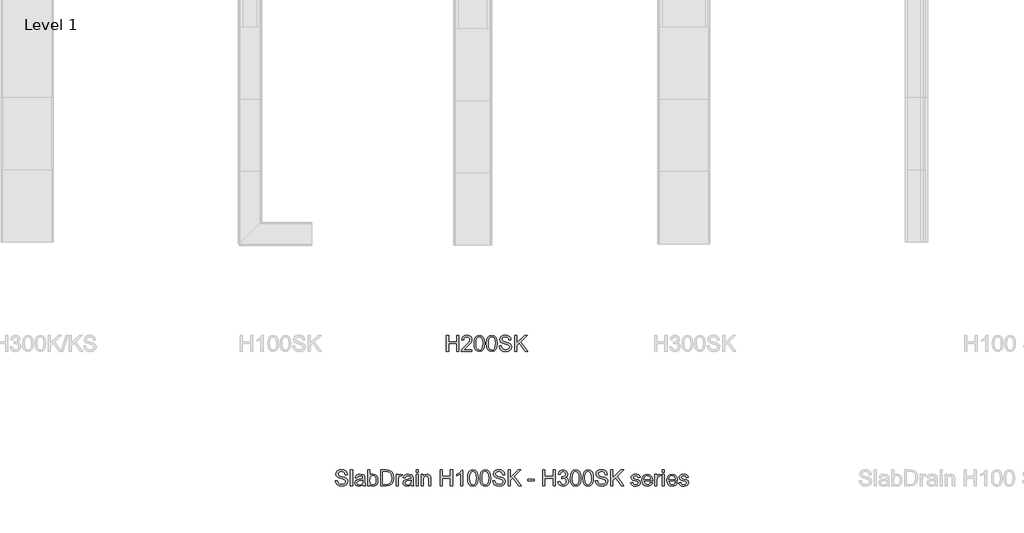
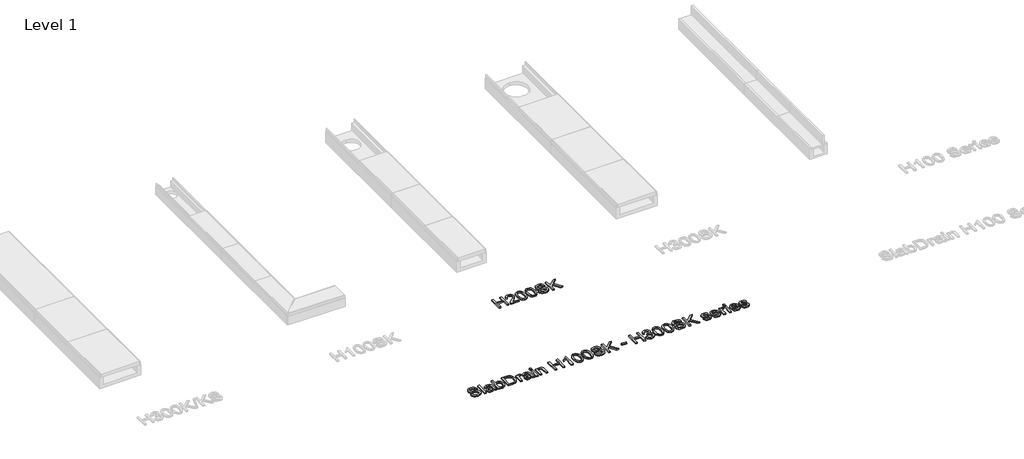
# One storey, part 3 of 4: 2 proxies.
"""IFC4 building model written with IfcOpenShell, lengths in millimetres."""

import ifcopenshell
import ifcopenshell.guid

model = None  # the IFC model being written
_history = None  # IfcOwnerHistory: only IFC2X3 demands one
_inside = {}  # id of a spatial element -> (the spatial element, [elements in it])
_under = {}  # id of a project, library or spatial element -> (it, [spatial elements below it])
_declared = {}  # id of a project -> (the project, [libraries it declares])
_typed = {}  # id of a type object -> (the type object, [elements of that type])
_made_of = {}  # id of a material, layer set ... -> (it, [elements and type objects made of it])


def new_model(schema):
    """Start an empty IFC model of exactly this schema.

    Asked for "IFC4X3", IfcOpenShell would pick the latest addendum, in which some entities
    have other attributes; the version numbers below select the first issue.
    IFC2X3 requires an IfcOwnerHistory on every rooted entity: one is made here for all.
    """
    global model, _history
    if schema == "IFC4X3":
        model = ifcopenshell.file(schema_version=(4, 3, 0, 0))
    else:
        model = ifcopenshell.file(schema=schema)
    _inside.clear()
    _under.clear()
    _declared.clear()
    _typed.clear()
    _made_of.clear()
    _history = None
    if model.schema == "IFC2X3":
        org = make("IfcOrganization", Name="unknown")
        user = make(
            "IfcPersonAndOrganization",
            ThePerson=make("IfcPerson", FamilyName="unknown"),
            TheOrganization=org,
        )
        app = make(
            "IfcApplication",
            ApplicationDeveloper=org,
            Version="unknown",
            ApplicationFullName="unknown",
            ApplicationIdentifier="unknown",
        )
        _history = make(
            "IfcOwnerHistory",
            OwningUser=user,
            OwningApplication=app,
            ChangeAction="ADDED",
            CreationDate=0,
        )
    return model


def make(cls, **values):
    """One entity of the class cls with the attributes given. An attribute that is None is left unset."""
    return model.create_entity(
        cls, **{name: value for name, value in values.items() if value is not None}
    )


def rooted(cls, **values):
    """An entity with a GlobalId (a new one), such as an element, a storey or a relation."""
    return make(cls, GlobalId=ifcopenshell.guid.new(), OwnerHistory=_history, **values)


def si_unit(unit_type, name, prefix=None):
    """IfcSIUnit, for example si_unit("LENGTHUNIT", "METRE", prefix="MILLI")."""
    return make("IfcSIUnit", UnitType=unit_type, Prefix=prefix, Name=name)


def assignment(units):
    """IfcUnitAssignment: the units of a project."""
    return None if units is None else make("IfcUnitAssignment", Units=units)


def point(xyz):
    """IfcCartesianPoint."""
    return None if xyz is None else make("IfcCartesianPoint", Coordinates=xyz)


def direction(xyz):
    """IfcDirection."""
    return None if xyz is None else make("IfcDirection", DirectionRatios=xyz)


def frame(location, z_axis=None, x_axis=None):
    """IfcAxis2Placement3D, a coordinate frame: its origin and axes. An axis left out is left unset."""
    return make(
        "IfcAxis2Placement3D",
        Location=point(location),
        Axis=direction(z_axis),
        RefDirection=direction(x_axis),
    )


def origin():
    """The frame at (0, 0, 0) with its axes left unset."""
    return frame((0.0, 0.0, 0.0))


def origin_with_axes():
    """The frame at (0, 0, 0) with the z axis (0, 0, 1) and the x axis (1, 0, 0) written out."""
    return frame((0.0, 0.0, 0.0), z_axis=(0.0, 0.0, 1.0), x_axis=(1.0, 0.0, 0.0))


def place(relative_to, where):
    """IfcLocalPlacement: puts the frame where relative to a parent placement (None: the world)."""
    return make(
        "IfcLocalPlacement", PlacementRelTo=relative_to, RelativePlacement=where
    )


def context(
    kind, dimensions, precision=None, world=None, true_north=None, identifier=None
):
    """IfcGeometricRepresentationContext, for example the 3D "Model" context."""
    return make(
        "IfcGeometricRepresentationContext",
        ContextIdentifier=identifier,
        ContextType=kind,
        CoordinateSpaceDimension=dimensions,
        Precision=precision,
        WorldCoordinateSystem=world,
        TrueNorth=true_north,
    )


def project(units=None, contexts=None):
    """IfcProject with its units and contexts."""
    return rooted(
        "IfcProject",
        Name="project",
        RepresentationContexts=contexts,
        UnitsInContext=assignment(units),
    )


def spatial(cls, under=None, at=None, **own):
    """A site, building, storey or space (cls), placed at a placement, below another one or the project."""
    s = rooted(cls, ObjectPlacement=at, **own)
    if under is not None:
        _under.setdefault(under.id(), (under, []))[1].append(s)
    return s


def polyline(points):
    """IfcPolyline through the points."""
    return make("IfcPolyline", Points=[point(p) for p in points])


def outline(outer, holes=None, kind="AREA"):
    """IfcArbitraryClosedProfileDef: a profile drawn as a closed curve; with holes, ...WithVoids."""
    if holes is None:
        return make("IfcArbitraryClosedProfileDef", ProfileType=kind, OuterCurve=outer)
    return make(
        "IfcArbitraryProfileDefWithVoids",
        ProfileType=kind,
        OuterCurve=outer,
        InnerCurves=holes,
    )


def extrude(swept, where, along, depth):
    """IfcExtrudedAreaSolid: the profile swept, set in the frame where, extruded along a direction by depth."""
    return make(
        "IfcExtrudedAreaSolid",
        SweptArea=swept,
        Position=where,
        ExtrudedDirection=direction(along),
        Depth=depth,
    )


def shape(context_of_items, identifier, shape_type, items):
    """IfcShapeRepresentation: the items that make up one representation, for example the "Body"."""
    return make(
        "IfcShapeRepresentation",
        ContextOfItems=context_of_items,
        RepresentationIdentifier=identifier,
        RepresentationType=shape_type,
        Items=items,
    )


def made_of(thing, what):
    """Note that an element or type object is made of a material, layer set ...; save() writes the relation."""
    if what is not None:
        _made_of.setdefault(what.id(), (what, []))[1].append(thing)
    return thing


def element(
    cls,
    number,
    at=None,
    inside=None,
    cuts=None,
    type_object=None,
    material=None,
    context=None,
    identifier="Body",
    shape_type=None,
    held_by="IfcProductDefinitionShape",
    body=None,
    shapes=None,
    **own,
):
    """One element of the class cls, such as IfcWall. Its Tag is "e" and its number.

    at: its placement. inside: the storey or other place that contains it. cuts: it is an
    opening in that element (IfcRelVoidsElement). A single representation is given by context,
    identifier, shape_type and body (its items); several are given by shapes. held_by: the class
    of the entity that holds the representations. save() writes the other relations.
    """
    e = rooted(cls, Tag="e%d" % number, ObjectPlacement=at, **own)
    if body is not None:
        shapes = [shape(context, identifier, shape_type, body)]
    if shapes is not None:
        e.Representation = make(held_by, Representations=shapes)
    if inside is not None:
        _inside.setdefault(inside.id(), (inside, []))[1].append(e)
    if cuts is not None:
        rooted(
            "IfcRelVoidsElement", RelatingBuildingElement=cuts, RelatedOpeningElement=e
        )
    if type_object is not None:
        _typed.setdefault(type_object.id(), (type_object, []))[1].append(e)
    return made_of(e, material)


def aggregate(whole, parts):
    """IfcRelAggregates: a whole, such as a stair, and the parts it consists of."""
    return rooted("IfcRelAggregates", RelatingObject=whole, RelatedObjects=parts)


def save(model, path):
    """Write the relations noted so far, then the file.

    IfcRelAggregates (storeys below a building ...), IfcRelContainedInSpatialStructure (elements
    in a storey), IfcRelDefinesByType, IfcRelAssociatesMaterial and IfcRelDeclares: one each for
    every whole, place, type object, material and project.
    """
    for whole, parts in _under.values():
        aggregate(whole, parts)
    for where, things in _inside.values():
        rooted(
            "IfcRelContainedInSpatialStructure",
            RelatedElements=things,
            RelatingStructure=where,
        )
    for kind, things in _typed.values():
        rooted("IfcRelDefinesByType", RelatedObjects=things, RelatingType=kind)
    for what, things in _made_of.values():
        rooted("IfcRelAssociatesMaterial", RelatedObjects=things, RelatingMaterial=what)
    for by, libraries in _declared.values():
        rooted("IfcRelDeclares", RelatingContext=by, RelatedDefinitions=libraries)
    model.write(path)


model = new_model("IFC4")

# Units and contexts
model_context = context("Model", 3, world=origin())
ifc_project = project(units=[si_unit("LENGTHUNIT", "METRE", prefix="MILLI")], contexts=[model_context])

# Site, building, storey
site = spatial("IfcSite", under=ifc_project)
building = spatial("IfcBuilding", under=site)
storey = spatial("IfcBuildingStorey", under=building, Name="Level 1", Elevation=0.0)

# Proxies
placement = place(None, origin())
element("IfcBuildingElementProxy", 1, Name="100mm ACO", ObjectType="100mm ACO", at=placement, inside=storey, context=model_context, shape_type="SweptSolid", body=[
    extrude(outline(polyline([(5344.2161654, -1239.3916886), (5341.9911411, -1229.5511586), (5337.0448641, -1222.5039144), (5329.3773344, -1218.2659635), (5318.988552, -1216.8533132), (5301.7005936, -1221.2553396), (5296.7062945, -1226.6618285), (5295.0415281, -1234.0772421), (5300.0038125, -1245.2023635), (5320.1090678, -1252.165569), (5342.0551706, -1258.2323618), (5356.6058689, -1268.1089084), (5361.143958, -1275.9445155), (5362.6566544, -1286.0691763), (5359.8833777, -1299.1672059), (5351.5635477, -1309.8401191), (5338.7856655, -1316.9353854), (5322.6382321, -1319.3004742), (5302.7410726, -1316.6752657), (5288.5745511, -1308.7996402), (5279.9305719, -1296.7460914), (5276.6010392, -1281.587113), (5290.9436417, -1280.370553), (5293.852981, -1292.4040926), (5300.7241441, -1300.6518894), (5310.5006446, -1305.4180835), (5322.1259963, -1307.0068148), (5341.0787211, -1301.7724052), (5346.5052191, -1295.6055663), (5348.3140518, -1287.573869), (5346.4451915, -1279.4661366), (5340.8386106, -1273.903576), (5315.082754, -1265.659781), (5299.3595159, -1260.8575703), (5288.7506322, -1254.3585785), (5282.7118522, -1245.9186933), (5280.6989256, -1235.2938022), (5283.224088, -1223.1282018), (5290.7995754, -1213.2676626), (5302.729067, -1206.736656), (5318.3162425, -1204.5596539), (5334.4276593, -1206.7526634), (5347.0334623, -1213.331692), (5355.3412868, -1223.9445776), (5358.5587679, -1238.239158), (5344.2161654, -1239.3916886)])), origin_with_axes(), (0.0, 0.0, 1.0), 10.0),
    extrude(outline(polyline([(5395.4397459, -1317.2515309), (5381.0971433, -1317.2515309), (5381.0971433, -1206.6085971), (5395.4397459, -1206.6085971), (5395.4397459, -1317.2515309)])), origin_with_axes(), (0.0, 0.0, 1.0), 10.0),
    extrude(outline(polyline([(5485.5932475, -1317.2515309), (5471.250645, -1317.2515309), (5467.1527586, -1307.5830801), (5453.3303955, -1316.3711257), (5438.4355388, -1319.3004742), (5427.3864524, -1317.6997373), (5418.9545708, -1312.8975266), (5413.6121114, -1305.4701074), (5411.8312916, -1295.993745), (5413.5760948, -1286.8015134), (5418.8105045, -1279.3941035), (5428.3589, -1273.979611), (5443.045661, -1270.7661317), (5455.5954382, -1268.8452474), (5467.1527586, -1266.0279505), (5466.7845891, -1257.1438607), (5464.6396016, -1251.7493774), (5458.9249709, -1247.2513067), (5448.3280927, -1245.5385183), (5434.9619397, -1249.0121173), (5428.2228374, -1261.930064), (5413.8802349, -1260.1692534), (5417.8140458, -1249.3162573), (5425.1974447, -1241.536676), (5436.0224279, -1236.8545206), (5450.2809917, -1235.2938022), (5471.5867998, -1239.5677697), (5479.9426463, -1249.8765152), (5481.4953611, -1265.4196704), (5481.4953611, -1283.7000857), (5482.1036411, -1306.1104022), (5485.5932475, -1317.2515309)]), holes=[polyline([(5467.1527586, -1281.3950246), (5467.1527586, -1276.2726666), (5441.396902, -1282.1633783), (5429.9796461, -1286.6534453), (5426.1738942, -1295.7696419), (5430.2717806, -1305.3100337), (5442.0852189, -1309.0557581), (5451.4215168, -1307.4870359), (5459.5812731, -1302.7808695), (5465.2598872, -1294.2969639), (5467.1527586, -1281.3950246)])]), origin_with_axes(), (0.0, 0.0, 1.0), 10.0),
    extrude(outline(polyline([(5516.5194843, -1245.2503856), (5525.7717435, -1237.782948), (5538.0333881, -1235.2938022), (5551.7797161, -1238.1110991), (5562.4766404, -1246.5629899), (5569.3558072, -1259.5609734), (5571.6488628, -1276.0165487), (5569.1277022, -1294.5330726), (5561.5642203, -1308.143338), (5550.6231837, -1316.5111901), (5537.9693586, -1319.3004742), (5525.7797472, -1316.5632141), (5516.6155285, -1308.3514338), (5516.3273958, -1317.2515309), (5501.9847933, -1317.2515309), (5501.9847933, -1206.6085971), (5516.3273958, -1206.6085971), (5516.5194843, -1245.2503856)]), holes=[polyline([(5536.6247396, -1309.0557581), (5544.832518, -1306.9627946), (5551.4635706, -1300.6839041), (5555.8455878, -1290.6192709), (5557.3062602, -1277.1690792), (5555.9616412, -1264.111068), (5551.9277843, -1254.0704459), (5545.5248367, -1247.6715002), (5537.0729459, -1245.5385183), (5528.6370625, -1247.7395315), (5522.0260192, -1254.3425712), (5517.7520517, -1264.315162), (5516.3273958, -1276.6248287), (5518.6964864, -1295.385465), (5525.835773, -1305.0058937), (5536.6247396, -1309.0557581)])]), origin_with_axes(), (0.0, 0.0, 1.0), 10.0),
    extrude(outline(polyline([(5590.0893517, -1206.6085971), (5627.7386834, -1206.6085971), (5644.7705239, -1207.6330687), (5658.4088022, -1212.6113604), (5669.7900415, -1223.5123787), (5677.4575712, -1239.4717254), (5680.2428534, -1261.321784), (5677.3775344, -1283.6000397), (5668.7815773, -1301.5162873), (5653.1984036, -1313.31772), (5629.371435, -1317.2515309), (5590.0893517, -1317.2515309), (5590.0893517, -1206.6085971)]), holes=[polyline([(5604.4319543, -1304.9578716), (5628.026816, -1304.9578716), (5640.912748, -1304.0294442), (5652.4220462, -1299.0191378), (5662.0744897, -1285.6369774), (5665.9002509, -1261.0016366), (5664.4275729, -1245.1863561), (5659.0170822, -1231.7881884), (5649.9729188, -1222.9361134), (5640.0163353, -1219.5105364), (5627.5786097, -1218.9022564), (5604.4319543, -1218.9022564), (5604.4319543, -1304.9578716)])]), origin_with_axes(), (0.0, 0.0, 1.0), 10.0),
    extrude(outline(polyline([(5741.71115, -1238.4312465), (5737.2290867, -1247.5874615), (5727.8167538, -1245.5385183), (5721.4058025, -1247.3393473), (5716.7716692, -1252.7418343), (5713.0259449, -1272.9111191), (5713.0259449, -1317.2515309), (5698.6833424, -1317.2515309), (5698.6833424, -1237.3427454), (5710.9770017, -1237.3427454), (5710.9770017, -1249.1881984), (5718.6445314, -1238.7674012), (5727.9768275, -1235.2938022), (5741.71115, -1238.4312465)])), origin_with_axes(), (0.0, 0.0, 1.0), 10.0),
    extrude(outline(polyline([(5819.5709923, -1317.2515309), (5805.2283898, -1317.2515309), (5801.1305033, -1307.5830801), (5787.3081403, -1316.3711257), (5772.4132835, -1319.3004742), (5761.3641971, -1317.6997373), (5752.9323156, -1312.8975266), (5747.5898562, -1305.4701074), (5745.8090364, -1295.993745), (5747.5538396, -1286.8015134), (5752.7882493, -1279.3941035), (5762.3366448, -1273.979611), (5777.0234058, -1270.7661317), (5789.573183, -1268.8452474), (5801.1305033, -1266.0279505), (5800.7623339, -1257.1438607), (5798.6173464, -1251.7493774), (5792.9027157, -1247.2513067), (5782.3058375, -1245.5385183), (5768.9396845, -1249.0121173), (5762.2005822, -1261.930064), (5747.8579796, -1260.1692534), (5751.7917905, -1249.3162573), (5759.1751894, -1241.536676), (5770.0001727, -1236.8545206), (5784.2587365, -1235.2938022), (5805.5645445, -1239.5677697), (5813.9203911, -1249.8765152), (5815.4731059, -1265.4196704), (5815.4731059, -1283.7000857), (5816.0813859, -1306.1104022), (5819.5709923, -1317.2515309)]), holes=[polyline([(5801.1305033, -1281.3950246), (5801.1305033, -1276.2726666), (5775.3746468, -1282.1633783), (5763.9573909, -1286.6534453), (5760.1516389, -1295.7696419), (5764.2495254, -1305.3100337), (5776.0629636, -1309.0557581), (5785.3992615, -1307.4870359), (5793.5590178, -1302.7808695), (5799.237632, -1294.2969639), (5801.1305033, -1281.3950246)])]), origin_with_axes(), (0.0, 0.0, 1.0), 10.0),
    extrude(outline(polyline([(5850.3051406, -1317.2515309), (5835.9625381, -1317.2515309), (5835.9625381, -1237.3427454), (5850.3051406, -1237.3427454), (5850.3051406, -1317.2515309)])), origin_with_axes(), (0.0, 0.0, 1.0), 10.0),
    extrude(outline(polyline([(5850.3051406, -1220.9511996), (5835.9625381, -1220.9511996), (5835.9625381, -1206.6085971), (5850.3051406, -1206.6085971), (5850.3051406, -1220.9511996)])), origin_with_axes(), (0.0, 0.0, 1.0), 10.0),
    extrude(outline(polyline([(5936.3607558, -1317.2515309), (5922.0181533, -1317.2515309), (5922.0181533, -1267.5006284), (5917.7441858, -1250.2446847), (5905.8507107, -1245.5385183), (5894.757604, -1248.5479036), (5887.3301849, -1257.0318091), (5885.1371753, -1272.5269422), (5885.1371753, -1317.2515309), (5870.7945728, -1317.2515309), (5870.7945728, -1237.3427454), (5883.0882321, -1237.3427454), (5883.0882321, -1248.4518594), (5894.0372724, -1238.5753128), (5908.7000224, -1235.2938022), (5921.2818143, -1237.5668485), (5931.0142946, -1244.3699803), (5935.4483358, -1254.0384311), (5936.3607558, -1267.91682), (5936.3607558, -1317.2515309)])), origin_with_axes(), (0.0, 0.0, 1.0), 10.0),
    extrude(outline(polyline([(6087.9825541, -1317.2515309), (6073.6399515, -1317.2515309), (6073.6399515, -1263.9790072), (6016.2695414, -1263.9790072), (6016.2695414, -1317.2515309), (6001.9269388, -1317.2515309), (6001.9269388, -1206.6085971), (6016.2695414, -1206.6085971), (6016.2695414, -1251.6853479), (6073.6399515, -1251.6853479), (6073.6399515, -1206.6085971), (6087.9825541, -1206.6085971), (6087.9825541, -1317.2515309)])), origin_with_axes(), (0.0, 0.0, 1.0), 10.0),
    extrude(outline(polyline([(6159.6955667, -1317.2515309), (6145.3529642, -1317.2515309), (6145.3529642, -1231.1959157), (6118.7167024, -1247.5874615), (6118.7167024, -1237.3427454), (6138.9340093, -1224.3767766), (6151.4997939, -1208.6575403), (6159.6955667, -1208.6575403), (6159.6955667, -1317.2515309)])), origin_with_axes(), (0.0, 0.0, 1.0), 10.0),
    extrude(outline(polyline([(6229.3276215, -1206.6085971), (6245.4770558, -1210.1342201), (6257.012366, -1220.7110891), (6263.9335521, -1238.3392041), (6266.2406142, -1263.0185651), (6263.8555162, -1287.8820108), (6256.7002223, -1305.4220853), (6245.0868762, -1315.830877), (6229.3276215, -1319.3004742), (6213.2062001, -1315.7828548), (6201.6908991, -1305.2299969), (6194.7817185, -1287.6419003), (6192.4786583, -1263.0185651), (6194.8637562, -1238.1591212), (6202.0190501, -1220.5670228), (6213.6163889, -1210.0982035), (6229.3276215, -1206.6085971)]), holes=[polyline([(6229.3596362, -1309.0557581), (6239.1401386, -1306.3625182), (6246.1993883, -1298.2827988), (6250.4733558, -1284.0802607), (6251.8980116, -1263.0185651), (6249.4008621, -1236.2222296), (6241.8613913, -1221.6555239), (6229.1995625, -1216.8533132), (6219.4390693, -1219.5945751), (6212.4398473, -1227.8183609), (6208.2259074, -1242.1009358), (6206.8212608, -1263.0185651), (6209.3664324, -1289.6388196), (6216.9059032, -1304.2535474), (6229.3596362, -1309.0557581)])]), origin_with_axes(), (0.0, 0.0, 1.0), 10.0),
    extrude(outline(polyline([(6315.3832367, -1206.6085971), (6331.532671, -1210.1342201), (6343.0679812, -1220.7110891), (6349.9891673, -1238.3392041), (6352.2962294, -1263.0185651), (6349.9111314, -1287.8820108), (6342.7558375, -1305.4220853), (6331.1424914, -1315.830877), (6315.3832367, -1319.3004742), (6299.2618153, -1315.7828548), (6287.7465143, -1305.2299969), (6280.8373337, -1287.6419003), (6278.5342735, -1263.0185651), (6280.9193714, -1238.1591212), (6288.0746653, -1220.5670228), (6299.6720041, -1210.0982035), (6315.3832367, -1206.6085971)]), holes=[polyline([(6315.4152514, -1309.0557581), (6325.1957538, -1306.3625182), (6332.2550035, -1298.2827988), (6336.528971, -1284.0802607), (6337.9536268, -1263.0185651), (6335.4564773, -1236.2222296), (6327.9170065, -1221.6555239), (6315.2551777, -1216.8533132), (6305.4946845, -1219.5945751), (6298.4954625, -1227.8183609), (6294.2815226, -1242.1009358), (6292.876876, -1263.0185651), (6295.4220477, -1289.6388196), (6302.9615184, -1304.2535474), (6315.4152514, -1309.0557581)])]), origin_with_axes(), (0.0, 0.0, 1.0), 10.0),
    extrude(outline(polyline([(6434.2539582, -1239.3916886), (6432.0289339, -1229.5511586), (6427.0826569, -1222.5039144), (6419.4151272, -1218.2659635), (6409.0263448, -1216.8533132), (6391.7383863, -1221.2553396), (6386.7440873, -1226.6618285), (6385.0793209, -1234.0772421), (6390.0416052, -1245.2023635), (6410.1468606, -1252.165569), (6432.0929634, -1258.2323618), (6446.6436617, -1268.1089084), (6451.1817508, -1275.9445155), (6452.6944471, -1286.0691763), (6449.9211705, -1299.1672059), (6441.6013405, -1309.8401191), (6428.8234583, -1316.9353854), (6412.6760249, -1319.3004742), (6392.7788653, -1316.6752657), (6378.6123438, -1308.7996402), (6369.9683646, -1296.7460914), (6366.6388319, -1281.587113), (6380.9814344, -1280.370553), (6383.8907737, -1292.4040926), (6390.7619368, -1300.6518894), (6400.5384374, -1305.4180835), (6412.1637891, -1307.0068148), (6431.1165138, -1301.7724052), (6436.5430119, -1295.6055663), (6438.3518446, -1287.573869), (6436.4829843, -1279.4661366), (6430.8764033, -1273.903576), (6405.1205468, -1265.659781), (6389.3973086, -1260.8575703), (6378.7884249, -1254.3585785), (6372.749645, -1245.9186933), (6370.7367183, -1235.2938022), (6373.2618808, -1223.1282018), (6380.8373681, -1213.2676626), (6392.7668598, -1206.736656), (6408.3540353, -1204.5596539), (6424.4654521, -1206.7526634), (6437.0712551, -1213.331692), (6445.3790795, -1223.9445776), (6448.5965607, -1238.239158), (6434.2539582, -1239.3916886)])), origin_with_axes(), (0.0, 0.0, 1.0), 10.0),
    extrude(outline(polyline([(6563.8496168, -1317.2515309), (6546.6577026, -1317.2515309), (6505.8389119, -1260.6174598), (6487.5264819, -1278.3216098), (6487.5264819, -1317.2515309), (6473.1838793, -1317.2515309), (6473.1838793, -1206.6085971), (6487.5264819, -1206.6085971), (6487.5264819, -1259.4969439), (6542.1436246, -1206.6085971), (6561.6085851, -1206.6085971), (6515.955569, -1250.82095), (6563.8496168, -1317.2515309)])), origin_with_axes(), (0.0, 0.0, 1.0), 10.0),
    extrude(outline(polyline([(6653.4908826, -1280.370553), (6610.463075, -1280.370553), (6610.463075, -1270.1258369), (6653.4908826, -1270.1258369), (6653.4908826, -1280.370553)])), origin_with_axes(), (0.0, 0.0, 1.0), 10.0),
    extrude(outline(polyline([(6798.9658512, -1317.2515309), (6784.6232487, -1317.2515309), (6784.6232487, -1263.9790072), (6727.2528385, -1263.9790072), (6727.2528385, -1317.2515309), (6712.910236, -1317.2515309), (6712.910236, -1206.6085971), (6727.2528385, -1206.6085971), (6727.2528385, -1251.6853479), (6784.6232487, -1251.6853479), (6784.6232487, -1206.6085971), (6798.9658512, -1206.6085971), (6798.9658512, -1317.2515309)])), origin_with_axes(), (0.0, 0.0, 1.0), 10.0),
    extrude(outline(polyline([(6869.9425249, -1257.9442292), (6879.1587676, -1261.525878), (6885.8058275, -1267.9328274), (6891.1682961, -1285.1087342), (6888.3750102, -1298.7270033), (6879.9951526, -1309.6800455), (6867.7255043, -1316.895367), (6853.2628465, -1319.3004742), (6839.6765922, -1317.1794978), (6828.6915353, -1310.8165686), (6821.0280074, -1300.9720368), (6817.4063402, -1288.4062522), (6831.7489427, -1286.5173827), (6839.3044209, -1303.4371716), (6845.6513426, -1307.6511114), (6853.7430676, -1309.0557581), (6862.6711776, -1307.3669806), (6870.118606, -1302.3006484), (6875.1489217, -1294.7851887), (6876.8256936, -1285.7490289), (6875.2529696, -1277.1650774), (6870.5347976, -1270.173859), (6863.2794576, -1265.5277202), (6854.0952297, -1263.9790072), (6844.042602, -1266.0279505), (6845.6433389, -1253.7342911), (6854.3513476, -1253.1900406), (6861.5226489, -1250.5328174), (6868.0856701, -1244.4820319), (6870.6788639, -1234.7175369), (6865.3804248, -1221.5274649), (6853.1027728, -1216.8533132), (6840.1207967, -1222.1677597), (6833.7978859, -1237.3427454), (6819.4552834, -1234.8776106), (6823.701238, -1222.4999126), (6831.1246553, -1213.6678468), (6841.0212112, -1208.3734095), (6852.6865813, -1206.6085971), (6865.3724211, -1208.7015606), (6875.7692072, -1214.980451), (6882.7084016, -1224.2847342), (6885.0214664, -1235.4538759), (6881.2517311, -1248.8040215), (6869.9425249, -1257.9442292)])), origin_with_axes(), (0.0, 0.0, 1.0), 10.0),
    extrude(outline(polyline([(6940.3109186, -1206.6085971), (6956.4603529, -1210.1342201), (6967.9956631, -1220.7110891), (6974.9168493, -1238.3392041), (6977.2239113, -1263.0185651), (6974.8388133, -1287.8820108), (6967.6835194, -1305.4220853), (6956.0701733, -1315.830877), (6940.3109186, -1319.3004742), (6924.1894972, -1315.7828548), (6912.6741962, -1305.2299969), (6905.7650156, -1287.6419003), (6903.4619554, -1263.0185651), (6905.8470534, -1238.1591212), (6913.0023473, -1220.5670228), (6924.599686, -1210.0982035), (6940.3109186, -1206.6085971)]), holes=[polyline([(6940.3429334, -1309.0557581), (6950.1234358, -1306.3625182), (6957.1826854, -1298.2827988), (6961.4566529, -1284.0802607), (6962.8813088, -1263.0185651), (6960.3841592, -1236.2222296), (6952.8446885, -1221.6555239), (6940.1828597, -1216.8533132), (6930.4223665, -1219.5945751), (6923.4231444, -1227.8183609), (6919.2092046, -1242.1009358), (6917.8045579, -1263.0185651), (6920.3497296, -1289.6388196), (6927.8892004, -1304.2535474), (6940.3429334, -1309.0557581)])]), origin_with_axes(), (0.0, 0.0, 1.0), 10.0),
    extrude(outline(polyline([(7026.3665338, -1206.6085971), (7042.5159681, -1210.1342201), (7054.0512784, -1220.7110891), (7060.9724645, -1238.3392041), (7063.2795265, -1263.0185651), (7060.8944286, -1287.8820108), (7053.7391347, -1305.4220853), (7042.1257885, -1315.830877), (7026.3665338, -1319.3004742), (7010.2451124, -1315.7828548), (6998.7298114, -1305.2299969), (6991.8206308, -1287.6419003), (6989.5175706, -1263.0185651), (6991.9026686, -1238.1591212), (6999.0579625, -1220.5670228), (7010.6553013, -1210.0982035), (7026.3665338, -1206.6085971)]), holes=[polyline([(7026.3985486, -1309.0557581), (7036.179051, -1306.3625182), (7043.2383007, -1298.2827988), (7047.5122682, -1284.0802607), (7048.936924, -1263.0185651), (7046.4397744, -1236.2222296), (7038.9003037, -1221.6555239), (7026.2384749, -1216.8533132), (7016.4779817, -1219.5945751), (7009.4787596, -1227.8183609), (7005.2648198, -1242.1009358), (7003.8601732, -1263.0185651), (7006.4053448, -1289.6388196), (7013.9448156, -1304.2535474), (7026.3985486, -1309.0557581)])]), origin_with_axes(), (0.0, 0.0, 1.0), 10.0),
    extrude(outline(polyline([(7145.2372553, -1239.3916886), (7143.012231, -1229.5511586), (7138.065954, -1222.5039144), (7130.3984243, -1218.2659635), (7120.0096419, -1216.8533132), (7102.7216835, -1221.2553396), (7097.7273844, -1226.6618285), (7096.062618, -1234.0772421), (7101.0249024, -1245.2023635), (7121.1301577, -1252.165569), (7143.0762605, -1258.2323618), (7157.6269588, -1268.1089084), (7162.1650479, -1275.9445155), (7163.6777443, -1286.0691763), (7160.9044676, -1299.1672059), (7152.5846376, -1309.8401191), (7139.8067554, -1316.9353854), (7123.659322, -1319.3004742), (7103.7621625, -1316.6752657), (7089.595641, -1308.7996402), (7080.9516618, -1296.7460914), (7077.6221291, -1281.587113), (7091.9647316, -1280.370553), (7094.8740709, -1292.4040926), (7101.745234, -1300.6518894), (7111.5217346, -1305.4180835), (7123.1470862, -1307.0068148), (7142.099811, -1301.7724052), (7147.5263091, -1295.6055663), (7149.3351417, -1287.573869), (7147.4662814, -1279.4661366), (7141.8597005, -1273.903576), (7116.1038439, -1265.659781), (7100.3806058, -1260.8575703), (7089.7717221, -1254.3585785), (7083.7329421, -1245.9186933), (7081.7200155, -1235.2938022), (7084.2451779, -1223.1282018), (7091.8206653, -1213.2676626), (7103.750157, -1206.736656), (7119.3373324, -1204.5596539), (7135.4487492, -1206.7526634), (7148.0545522, -1213.331692), (7156.3623767, -1223.9445776), (7159.5798578, -1238.239158), (7145.2372553, -1239.3916886)])), origin_with_axes(), (0.0, 0.0, 1.0), 10.0),
    extrude(outline(polyline([(7274.8329139, -1317.2515309), (7257.6409997, -1317.2515309), (7216.822209, -1260.6174598), (7198.509779, -1278.3216098), (7198.509779, -1317.2515309), (7184.1671765, -1317.2515309), (7184.1671765, -1206.6085971), (7198.509779, -1206.6085971), (7198.509779, -1259.4969439), (7253.1269217, -1206.6085971), (7272.5918823, -1206.6085971), (7226.9388662, -1250.82095), (7274.8329139, -1317.2515309)])), origin_with_axes(), (0.0, 0.0, 1.0), 10.0),
    extrude(outline(polyline([(7372.6699527, -1259.8811208), (7367.3715136, -1249.1241689), (7355.1258764, -1245.5385183), (7342.6081139, -1248.6119331), (7337.8379179, -1257.5440449), (7340.9913696, -1265.4516852), (7355.8622153, -1269.74166), (7375.4712422, -1274.3517823), (7385.4758478, -1281.3470025), (7389.0614984, -1293.8807723), (7386.8364741, -1303.7613208), (7380.1614013, -1311.9530918), (7369.7646152, -1317.4636286), (7356.3744511, -1319.3004742), (7342.5720973, -1317.7557631), (7332.155302, -1313.1216298), (7325.1160615, -1305.406078), (7321.4463722, -1294.6171113), (7335.7889747, -1292.6642123), (7341.9838265, -1304.973879), (7356.3744511, -1309.0557581), (7369.9807147, -1304.8138053), (7374.7188959, -1294.4890524), (7372.5899158, -1287.878009), (7367.2754693, -1284.1482921), (7352.24455, -1280.9468183), (7337.6658387, -1277.377175), (7329.0818871, -1272.3028391), (7323.4953154, -1258.3764281), (7325.5642678, -1249.2082076), (7331.7711251, -1241.8088013), (7341.4755925, -1236.9225519), (7354.0373753, -1235.2938022), (7367.2394528, -1236.718458), (7377.1360086, -1240.9924255), (7383.7270427, -1248.107701), (7387.0125552, -1258.0562807), (7372.6699527, -1259.8811208)])), origin_with_axes(), (0.0, 0.0, 1.0), 10.0),
    extrude(outline(polyline([(7473.0681704, -1280.370553), (7413.6488171, -1280.370553), (7415.9418727, -1292.6802197), (7421.1562731, -1301.6923684), (7428.6597272, -1307.2149106), (7437.8199441, -1309.0557581), (7450.7378908, -1304.973879), (7458.7255679, -1292.6642123), (7473.0681704, -1294.3289787), (7468.2259413, -1304.973879), (7460.5504079, -1312.8334971), (7450.3216992, -1317.6837299), (7437.8199441, -1319.3004742), (7421.6805144, -1316.5271975), (7409.5029085, -1308.2073675), (7401.855388, -1295.0853269), (7399.3062145, -1277.9054182), (7401.7633456, -1260.713504), (7409.134739, -1247.1072404), (7420.9721883, -1238.2471617), (7436.8274872, -1235.2938022), (7453.6672393, -1239.1195633), (7467.4175692, -1252.1495616), (7471.6555201, -1263.806928), (7473.0681704, -1280.370553)]), holes=[polyline([(7458.7255679, -1270.1258369), (7456.4205068, -1258.8886639), (7451.1700898, -1251.3011711), (7436.4753251, -1245.5385183), (7427.7833238, -1247.2513067), (7420.7881036, -1252.3896722), (7413.6488171, -1270.1258369), (7458.7255679, -1270.1258369)])]), origin_with_axes(), (0.0, 0.0, 1.0), 10.0),
    extrude(outline(polyline([(7532.4875238, -1238.4312465), (7528.0054605, -1247.5874615), (7518.5931276, -1245.5385183), (7512.1821763, -1247.3393473), (7507.548043, -1252.7418343), (7503.8023187, -1272.9111191), (7503.8023187, -1317.2515309), (7489.4597162, -1317.2515309), (7489.4597162, -1237.3427454), (7501.7533755, -1237.3427454), (7501.7533755, -1249.1881984), (7509.4209052, -1238.7674012), (7518.7532013, -1235.2938022), (7532.4875238, -1238.4312465)])), origin_with_axes(), (0.0, 0.0, 1.0), 10.0),
    extrude(outline(polyline([(7555.0258992, -1317.2515309), (7540.6832967, -1317.2515309), (7540.6832967, -1237.3427454), (7555.0258992, -1237.3427454), (7555.0258992, -1317.2515309)])), origin_with_axes(), (0.0, 0.0, 1.0), 10.0),
    extrude(outline(polyline([(7555.0258992, -1220.9511996), (7540.6832967, -1220.9511996), (7540.6832967, -1206.6085971), (7555.0258992, -1206.6085971), (7555.0258992, -1220.9511996)])), origin_with_axes(), (0.0, 0.0, 1.0), 10.0),
    extrude(outline(polyline([(7645.1794009, -1280.370553), (7585.7600475, -1280.370553), (7588.0531031, -1292.6802197), (7593.2675035, -1301.6923684), (7600.7709577, -1307.2149106), (7609.9311745, -1309.0557581), (7622.8491212, -1304.973879), (7630.8367983, -1292.6642123), (7645.1794009, -1294.3289787), (7640.3371718, -1304.973879), (7632.6616384, -1312.8334971), (7622.4329296, -1317.6837299), (7609.9311745, -1319.3004742), (7593.7917448, -1316.5271975), (7581.6141389, -1308.2073675), (7573.9666185, -1295.0853269), (7571.417445, -1277.9054182), (7573.8745761, -1260.713504), (7581.2459695, -1247.1072404), (7593.0834188, -1238.2471617), (7608.9387177, -1235.2938022), (7625.7784697, -1239.1195633), (7639.5287996, -1252.1495616), (7643.7667506, -1263.806928), (7645.1794009, -1280.370553)]), holes=[polyline([(7630.8367983, -1270.1258369), (7628.5317372, -1258.8886639), (7623.2813202, -1251.3011711), (7608.5865555, -1245.5385183), (7599.8945542, -1247.2513067), (7592.899334, -1252.3896722), (7585.7600475, -1270.1258369), (7630.8367983, -1270.1258369)])]), origin_with_axes(), (0.0, 0.0, 1.0), 10.0),
    extrude(outline(polyline([(7706.6476974, -1259.8811208), (7701.3492583, -1249.1241689), (7689.1036211, -1245.5385183), (7676.5858586, -1248.6119331), (7671.8156627, -1257.5440449), (7674.9691144, -1265.4516852), (7689.8399601, -1269.74166), (7709.448987, -1274.3517823), (7719.4535926, -1281.3470025), (7723.0392432, -1293.8807723), (7720.8142189, -1303.7613208), (7714.1391461, -1311.9530918), (7703.74236, -1317.4636286), (7690.3521959, -1319.3004742), (7676.5498421, -1317.7557631), (7666.1330468, -1313.1216298), (7659.0938063, -1305.406078), (7655.424117, -1294.6171113), (7669.7667195, -1292.6642123), (7675.9615713, -1304.973879), (7690.3521959, -1309.0557581), (7703.9584595, -1304.8138053), (7708.6966407, -1294.4890524), (7706.5676606, -1287.878009), (7701.2532141, -1284.1482921), (7686.2222947, -1280.9468183), (7671.6435835, -1277.377175), (7663.0596319, -1272.3028391), (7657.4730602, -1258.3764281), (7659.5420126, -1249.2082076), (7665.7488699, -1241.8088013), (7675.4533373, -1236.9225519), (7688.01512, -1235.2938022), (7701.2171975, -1236.718458), (7711.1137534, -1240.9924255), (7717.7047875, -1248.107701), (7720.9903, -1258.0562807), (7706.6476974, -1259.8811208)])), origin_with_axes(), (0.0, 0.0, 1.0), 10.0),
])
element("IfcBuildingElementProxy", 2, Name="100mm ACO", ObjectType="100mm ACO", at=placement, inside=storey, context=model_context, shape_type="SweptSolid", body=[
    extrude(outline(polyline([(6132.235912, -383.8015309), (6117.8933095, -383.8015309), (6117.8933095, -330.5290072), (6060.5228993, -330.5290072), (6060.5228993, -383.8015309), (6046.1802968, -383.8015309), (6046.1802968, -273.1585971), (6060.5228993, -273.1585971), (6060.5228993, -318.2353479), (6117.8933095, -318.2353479), (6117.8933095, -273.1585971), (6132.235912, -273.1585971), (6132.235912, -383.8015309)])), origin_with_axes(), (0.0, 0.0, 1.0), 10.0),
    extrude(outline(polyline([(6222.3894136, -383.8015309), (6148.6274577, -383.8015309), (6155.2224937, -366.5455873), (6179.5857092, -342.6305781), (6199.2587656, -323.4537502), (6205.8497997, -313.465152), (6208.0468111, -303.4125243), (6206.5461203, -295.4888767), (6202.0440478, -289.0699218), (6195.2529215, -284.8199653), (6186.8850694, -283.4033132), (6171.3579216, -289.0539144), (6166.6357478, -296.1011586), (6165.0190035, -305.9416886), (6150.676401, -304.4049812), (6154.15, -291.0148171), (6161.9455887, -281.1942963), (6173.2467911, -275.1675219), (6187.2372315, -273.1585971), (6202.0160349, -275.4676601), (6213.1211471, -282.3948489), (6220.072347, -292.5875411), (6222.3894136, -304.6931138), (6220.452522, -315.6501578), (6214.6418471, -326.7512682), (6184.2918757, -357.1972838), (6167.0679467, -373.5568148), (6222.3894136, -373.5568148), (6222.3894136, -383.8015309)])), origin_with_axes(), (0.0, 0.0, 1.0), 10.0),
    extrude(outline(polyline([(6273.5809794, -273.1585971), (6289.7304137, -276.6842201), (6301.2657239, -287.2610891), (6308.18691, -304.8892041), (6310.4939721, -329.5685651), (6308.1088741, -354.4320108), (6300.9535802, -371.9720853), (6289.3402341, -382.380877), (6273.5809794, -385.8504742), (6257.459558, -382.3328548), (6245.944257, -371.7799969), (6239.0350764, -354.1919003), (6236.7320162, -329.5685651), (6239.1171141, -304.7091212), (6246.272408, -287.1170228), (6257.8697468, -276.6482035), (6273.5809794, -273.1585971)]), holes=[polyline([(6273.6129941, -375.6057581), (6283.3934965, -372.9125182), (6290.4527462, -364.8327988), (6294.7267137, -350.6302607), (6296.1513695, -329.5685651), (6293.65422, -302.7722296), (6286.1147492, -288.2055239), (6273.4529204, -283.4033132), (6263.6924273, -286.1445751), (6256.6932052, -294.3683609), (6252.4792653, -308.6509358), (6251.0746187, -329.5685651), (6253.6197904, -356.1888196), (6261.1592611, -370.8035474), (6273.6129941, -375.6057581)])]), origin_with_axes(), (0.0, 0.0, 1.0), 10.0),
    extrude(outline(polyline([(6359.6365946, -273.1585971), (6375.7860289, -276.6842201), (6387.3213391, -287.2610891), (6394.2425253, -304.8892041), (6396.5495873, -329.5685651), (6394.1644893, -354.4320108), (6387.0091954, -371.9720853), (6375.3958493, -382.380877), (6359.6365946, -385.8504742), (6343.5151732, -382.3328548), (6331.9998722, -371.7799969), (6325.0906916, -354.1919003), (6322.7876314, -329.5685651), (6325.1727294, -304.7091212), (6332.3280233, -287.1170228), (6343.925362, -276.6482035), (6359.6365946, -273.1585971)]), holes=[polyline([(6359.6686094, -375.6057581), (6369.4491118, -372.9125182), (6376.5083614, -364.8327988), (6380.7823289, -350.6302607), (6382.2069848, -329.5685651), (6379.7098352, -302.7722296), (6372.1703645, -288.2055239), (6359.5085357, -283.4033132), (6349.7480425, -286.1445751), (6342.7488204, -294.3683609), (6338.5348806, -308.6509358), (6337.1302339, -329.5685651), (6339.6754056, -356.1888196), (6347.2148763, -370.8035474), (6359.6686094, -375.6057581)])]), origin_with_axes(), (0.0, 0.0, 1.0), 10.0),
    extrude(outline(polyline([(6478.5073161, -305.9416886), (6476.2822918, -296.1011586), (6471.3360148, -289.0539144), (6463.6684851, -284.8159635), (6453.2797027, -283.4033132), (6435.9917443, -287.8053396), (6430.9974452, -293.2118285), (6429.3326788, -300.6272421), (6434.2949632, -311.7523635), (6454.4002185, -318.715569), (6476.3463213, -324.7823618), (6490.8970196, -334.6589084), (6495.4351087, -342.4945155), (6496.9478051, -352.6191763), (6494.1745284, -365.7172059), (6485.8546984, -376.3901191), (6473.0768162, -383.4853854), (6456.9293828, -385.8504742), (6437.0322233, -383.2252657), (6422.8657018, -375.3496402), (6414.2217226, -363.2960914), (6410.8921898, -348.137113), (6425.2347924, -346.920553), (6428.1441317, -358.9540926), (6435.0152948, -367.2018894), (6444.7917953, -371.9680835), (6456.417147, -373.5568148), (6475.3698718, -368.3224052), (6480.7963698, -362.1555663), (6482.6052025, -354.123869), (6480.7363422, -346.0161366), (6475.1297612, -340.453576), (6449.3739047, -332.209781), (6433.6506666, -327.4075703), (6423.0417828, -320.9085785), (6417.0030029, -312.4686933), (6414.9900763, -301.8438022), (6417.5152387, -289.6782018), (6425.0907261, -279.8176626), (6437.0202177, -273.286656), (6452.6073932, -271.1096539), (6468.71881, -273.3026634), (6481.324613, -279.881692), (6489.6324375, -290.4945776), (6492.8499186, -304.789158), (6478.5073161, -305.9416886)])), origin_with_axes(), (0.0, 0.0, 1.0), 10.0),
    extrude(outline(polyline([(6608.1029747, -383.8015309), (6590.9110605, -383.8015309), (6550.0922698, -327.1674598), (6531.7798398, -344.8716098), (6531.7798398, -383.8015309), (6517.4372373, -383.8015309), (6517.4372373, -273.1585971), (6531.7798398, -273.1585971), (6531.7798398, -326.0469439), (6586.3969825, -273.1585971), (6605.8619431, -273.1585971), (6560.208927, -317.37095), (6608.1029747, -383.8015309)])), origin_with_axes(), (0.0, 0.0, 1.0), 10.0),
])

save(model, "model.ifc")
